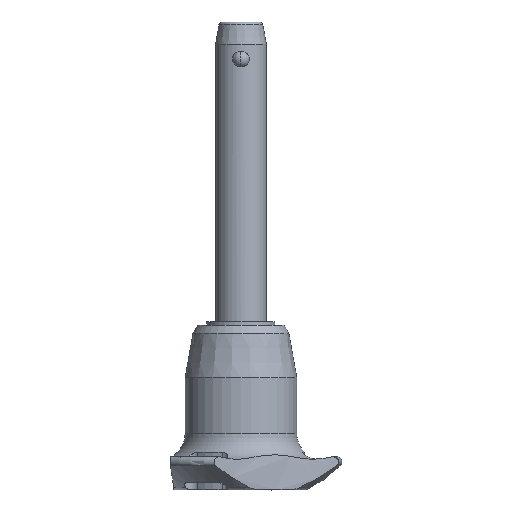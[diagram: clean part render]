
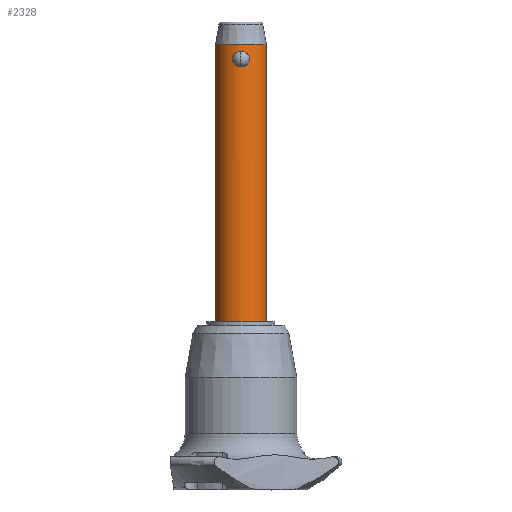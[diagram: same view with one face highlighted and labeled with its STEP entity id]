
A CAD part, front view. The second image highlights one B-rep face of the part: STEP entity #2328.
In plain terms, the highlighted cylindrical face has radius 6 mm (diameter 12 mm), a partial arc.
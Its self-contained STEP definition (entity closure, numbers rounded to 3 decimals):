
#41 = CARTESIAN_POINT ( 'NONE',  ( -1.179, -5.884, 0.363 ) ) ;
#53 = CYLINDRICAL_SURFACE ( 'NONE', #1336, 6. ) ;
#70 = CARTESIAN_POINT ( 'NONE',  ( -1.942, -5.677, 1.604 ) ) ;
#83 = CARTESIAN_POINT ( 'NONE',  ( 0., -6., 0. ) ) ;
#95 = CARTESIAN_POINT ( 'NONE',  ( -6., 0., 5.3 ) ) ;
#116 = DIRECTION ( 'NONE',  ( 0., 0., 1. ) ) ;
#173 = ORIENTED_EDGE ( 'NONE', *, *, #875, .F. ) ;
#176 = CARTESIAN_POINT ( 'NONE',  ( -0.854, -5.94, 3.53 ) ) ;
#207 = CARTESIAN_POINT ( 'NONE',  ( 1.277, -5.863, 0.437 ) ) ;
#224 = CARTESIAN_POINT ( 'NONE',  ( 0., -6., 0. ) ) ;
#227 = CARTESIAN_POINT ( 'NONE',  ( 0., -6., 3.708 ) ) ;
#243 = CARTESIAN_POINT ( 'NONE',  ( -1.551, -5.799, 0.69 ) ) ;
#269 = CARTESIAN_POINT ( 'NONE',  ( -1.278, -5.863, 0.437 ) ) ;
#310 = CARTESIAN_POINT ( 'NONE',  ( 0., 0., -60. ) ) ;
#330 = CARTESIAN_POINT ( 'NONE',  ( 0., -6., 3.708 ) ) ;
#384 = CARTESIAN_POINT ( 'NONE',  ( 1.942, -5.677, 2.103 ) ) ;
#399 = CARTESIAN_POINT ( 'NONE',  ( 0.855, -5.94, 3.53 ) ) ;
#401 = CARTESIAN_POINT ( 'NONE',  ( -1.75, -5.74, 2.7 ) ) ;
#425 = CARTESIAN_POINT ( 'NONE',  ( 0.853, -5.94, 0.177 ) ) ;
#485 = CARTESIAN_POINT ( 'NONE',  ( -1.852, -5.707, 1.239 ) ) ;
#494 = CARTESIAN_POINT ( 'NONE',  ( 0.252, -5.996, 3.697 ) ) ;
#542 = LINE ( 'NONE', #971, #1751 ) ;
#599 = CARTESIAN_POINT ( 'NONE',  ( 0.966, -5.923, 0.232 ) ) ;
#615 = CARTESIAN_POINT ( 'NONE',  ( 1.178, -5.884, 3.346 ) ) ;
#617 = CARTESIAN_POINT ( 'NONE',  ( -0.966, -5.923, 3.476 ) ) ;
#631 = CARTESIAN_POINT ( 'NONE',  ( -1.541, -5.799, 3.011 ) ) ;
#700 = VERTEX_POINT ( 'NONE', #1188 ) ;
#724 = FACE_OUTER_BOUND ( 'NONE', #1501, .T. ) ;
#727 = CARTESIAN_POINT ( 'NONE',  ( -0.504, -5.983, 0.045 ) ) ;
#822 = CARTESIAN_POINT ( 'NONE',  ( 1.7, -5.755, 2.812 ) ) ;
#825 = VERTEX_POINT ( 'NONE', #1955 ) ;
#828 = CARTESIAN_POINT ( 'NONE',  ( -0.252, -5.996, 3.697 ) ) ;
#837 = CARTESIAN_POINT ( 'NONE',  ( 1.543, -5.799, 0.699 ) ) ;
#862 = CARTESIAN_POINT ( 'NONE',  ( 1.459, -5.821, 0.604 ) ) ;
#875 = EDGE_CURVE ( 'NONE', #999, #825, #1586, .T. ) ;
#880 = CARTESIAN_POINT ( 'NONE',  ( 0., 0., -60. ) ) ;
#907 = FACE_BOUND ( 'NONE', #2713, .T. ) ;
#938 = CARTESIAN_POINT ( 'NONE',  ( -1.7, -5.755, 0.895 ) ) ;
#971 = CARTESIAN_POINT ( 'NONE',  ( 6., 0., -60. ) ) ;
#999 = VERTEX_POINT ( 'NONE', #330 ) ;
#1044 = ORIENTED_EDGE ( 'NONE', *, *, #2249, .F. ) ;
#1073 = CARTESIAN_POINT ( 'NONE',  ( 1.955, -5.673, 1.6 ) ) ;
#1113 = CARTESIAN_POINT ( 'NONE',  ( -0.967, -5.923, 0.233 ) ) ;
#1122 = CARTESIAN_POINT ( 'NONE',  ( -6., 0., -60. ) ) ;
#1149 = VECTOR ( 'NONE', #2706, 1000. ) ;
#1163 = EDGE_CURVE ( 'NONE', #825, #999, #2769, .T. ) ;
#1188 = CARTESIAN_POINT ( 'NONE',  ( 6., 0., -60. ) ) ;
#1190 = VERTEX_POINT ( 'NONE', #1122 ) ;
#1211 = VERTEX_POINT ( 'NONE', #2339 ) ;
#1230 = ORIENTED_EDGE ( 'NONE', *, *, #1854, .T. ) ;
#1236 = ORIENTED_EDGE ( 'NONE', *, *, #1163, .F. ) ;
#1261 = CARTESIAN_POINT ( 'NONE',  ( 1.89, -5.695, 2.349 ) ) ;
#1276 = CARTESIAN_POINT ( 'NONE',  ( 0.62, -5.969, 3.619 ) ) ;
#1280 = VERTEX_POINT ( 'NONE', #95 ) ;
#1318 = CARTESIAN_POINT ( 'NONE',  ( -1.687, -5.759, 2.809 ) ) ;
#1336 = AXIS2_PLACEMENT_3D ( 'NONE', #310, #1580, #1403 ) ;
#1403 = DIRECTION ( 'NONE',  ( 1., 0., 0. ) ) ;
#1472 = CARTESIAN_POINT ( 'NONE',  ( 0., 0., 5.3 ) ) ;
#1477 = AXIS2_PLACEMENT_3D ( 'NONE', #880, #1526, #2006 ) ;
#1480 = CARTESIAN_POINT ( 'NONE',  ( 1.901, -5.692, 1.35 ) ) ;
#1497 = CARTESIAN_POINT ( 'NONE',  ( -1.278, -5.863, 3.271 ) ) ;
#1501 = EDGE_LOOP ( 'NONE', ( #2434, #1044, #2379, #1230 ) ) ;
#1503 = EDGE_CURVE ( 'NONE', #700, #1211, #542, .T. ) ;
#1526 = DIRECTION ( 'NONE',  ( 0., 0., -1. ) ) ;
#1551 = CARTESIAN_POINT ( 'NONE',  ( -1.955, -5.673, 1.731 ) ) ;
#1580 = DIRECTION ( 'NONE',  ( 0., 0., 1. ) ) ;
#1586 = B_SPLINE_CURVE_WITH_KNOTS ( 'NONE', 3,
 ( #227, #2158, #828, #2626, #2431, #176, #617, #1722, #1497, #2391, #631, #1318, #401, #2173, #2405, #1551, #70, #2230, #485, #938, #243, #269, #41, #1113, #2490, #727, #2067, #83 ),
 .UNSPECIFIED., .F., .F.,
 ( 4, 2, 2, 2, 2, 2, 2, 2, 2, 2, 2, 2, 2, 4 ),
 ( 0., 0., 0.001, 0.001, 0.002, 0.002, 0.002, 0.003, 0.003, 0.004, 0.005, 0.005, 0.005, 0.006 ),
 .UNSPECIFIED. ) ;
#1701 = CARTESIAN_POINT ( 'NONE',  ( 0.25, -6., 0. ) ) ;
#1717 = CARTESIAN_POINT ( 'NONE',  ( 1.551, -5.799, 3.018 ) ) ;
#1722 = CARTESIAN_POINT ( 'NONE',  ( -1.177, -5.884, 3.347 ) ) ;
#1751 = VECTOR ( 'NONE', #116, 1000. ) ;
#1756 = CARTESIAN_POINT ( 'NONE',  ( 1.687, -5.758, 0.899 ) ) ;
#1854 = EDGE_CURVE ( 'NONE', #1211, #1280, #2318, .T. ) ;
#1945 = AXIS2_PLACEMENT_3D ( 'NONE', #1472, #2382, #2180 ) ;
#1955 = CARTESIAN_POINT ( 'NONE',  ( 0., -6., 0. ) ) ;
#2006 = DIRECTION ( 'NONE',  ( 1., 0., 0. ) ) ;
#2067 = CARTESIAN_POINT ( 'NONE',  ( -0.25, -6., 0. ) ) ;
#2079 = LINE ( 'NONE', #2298, #1149 ) ;
#2155 = CARTESIAN_POINT ( 'NONE',  ( 1.851, -5.708, 2.47 ) ) ;
#2158 = CARTESIAN_POINT ( 'NONE',  ( -0.127, -6., 3.708 ) ) ;
#2170 = CARTESIAN_POINT ( 'NONE',  ( 0.498, -5.981, 3.652 ) ) ;
#2173 = CARTESIAN_POINT ( 'NONE',  ( -1.9, -5.692, 2.359 ) ) ;
#2180 = DIRECTION ( 'NONE',  ( 1., 0., 0. ) ) ;
#2230 = CARTESIAN_POINT ( 'NONE',  ( -1.89, -5.695, 1.358 ) ) ;
#2249 = EDGE_CURVE ( 'NONE', #700, #1190, #2737, .T. ) ;
#2298 = CARTESIAN_POINT ( 'NONE',  ( -6., 0., -60. ) ) ;
#2318 = CIRCLE ( 'NONE', #1945, 6. ) ;
#2328 = ADVANCED_FACE ( 'NONE', ( #724, #907 ), #53, .T. ) ;
#2339 = CARTESIAN_POINT ( 'NONE',  ( 6., 0., 5.3 ) ) ;
#2352 = EDGE_CURVE ( 'NONE', #1190, #1280, #2079, .T. ) ;
#2373 = CARTESIAN_POINT ( 'NONE',  ( 1.955, -5.673, 1.979 ) ) ;
#2379 = ORIENTED_EDGE ( 'NONE', *, *, #1503, .T. ) ;
#2382 = DIRECTION ( 'NONE',  ( 0., 0., -1. ) ) ;
#2388 = CARTESIAN_POINT ( 'NONE',  ( 0.966, -5.923, 3.476 ) ) ;
#2391 = CARTESIAN_POINT ( 'NONE',  ( -1.46, -5.821, 3.103 ) ) ;
#2405 = CARTESIAN_POINT ( 'NONE',  ( -1.955, -5.673, 2.107 ) ) ;
#2431 = CARTESIAN_POINT ( 'NONE',  ( -0.62, -5.969, 3.619 ) ) ;
#2434 = ORIENTED_EDGE ( 'NONE', *, *, #2352, .F. ) ;
#2439 = CARTESIAN_POINT ( 'NONE',  ( 0., -6., 3.708 ) ) ;
#2456 = CARTESIAN_POINT ( 'NONE',  ( 0.127, -6., 3.708 ) ) ;
#2490 = CARTESIAN_POINT ( 'NONE',  ( -0.853, -5.94, 0.177 ) ) ;
#2591 = CARTESIAN_POINT ( 'NONE',  ( 0.503, -5.983, 0.045 ) ) ;
#2610 = CARTESIAN_POINT ( 'NONE',  ( 1.279, -5.863, 3.27 ) ) ;
#2626 = CARTESIAN_POINT ( 'NONE',  ( -0.498, -5.981, 3.652 ) ) ;
#2649 = CARTESIAN_POINT ( 'NONE',  ( 1.749, -5.74, 1.007 ) ) ;
#2706 = DIRECTION ( 'NONE',  ( 0., 0., 1. ) ) ;
#2713 = EDGE_LOOP ( 'NONE', ( #173, #1236 ) ) ;
#2737 = CIRCLE ( 'NONE', #1477, 6. ) ;
#2769 = B_SPLINE_CURVE_WITH_KNOTS ( 'NONE', 3,
 ( #224, #1701, #2591, #425, #599, #2819, #207, #862, #837, #1756, #2649, #1480, #1073, #2373, #384, #1261, #2155, #822, #1717, #2610, #615, #2388, #399, #1276, #2170, #494, #2456, #2439 ),
 .UNSPECIFIED., .F., .F.,
 ( 4, 2, 2, 2, 2, 2, 2, 2, 2, 2, 2, 2, 2, 4 ),
 ( 0.006, 0.007, 0.007, 0.008, 0.008, 0.008, 0.009, 0.009, 0.01, 0.011, 0.011, 0.011, 0.012, 0.012 ),
 .UNSPECIFIED. ) ;
#2819 = CARTESIAN_POINT ( 'NONE',  ( 1.178, -5.884, 0.362 ) ) ;
